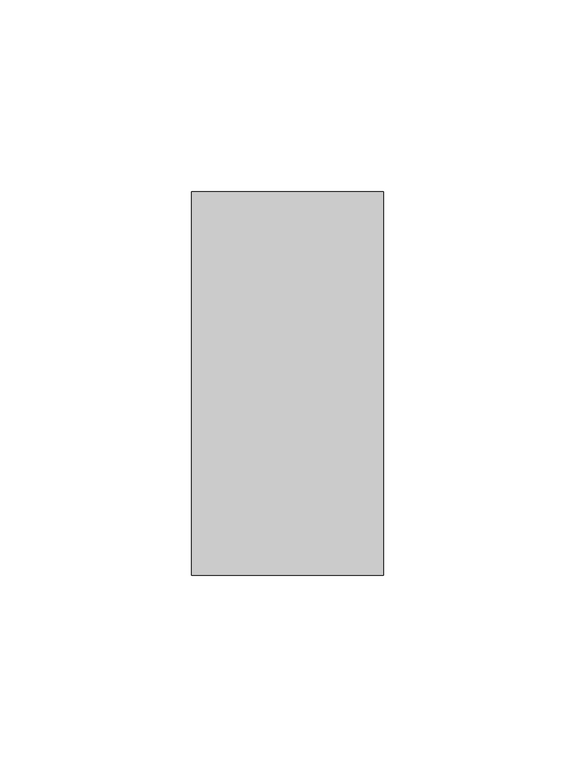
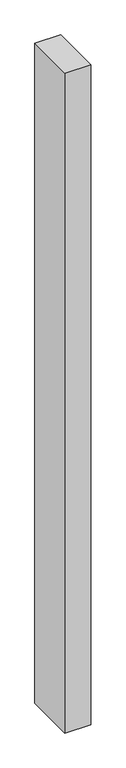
"""IFC4 building model written with IfcOpenShell, lengths in millimetres: member geometry, Прямоугольный импост : 50х100."""

from ifc_helpers import new_model, si_unit, frame, origin, place, context, project, spatial, polyline, outline, extrude, source, transform, mapped, element, save


def member_e036c857(model_context):
    return source(origin(), model_context, "Body", "SweptSolid", [
        extrude(outline(polyline([(0.0, 50.0), (0.0, -50.0), (-50.0, -50.0), (-50.0, 50.0), (0.0, 50.0)])), frame((0.0, 0.0, -1350.0), z_axis=(0.0, 0.0, 1.0), x_axis=(1.0, 0.0, 0.0)), (0.0, 0.0, 1.0), 1350.0),
    ])


if __name__ == "__main__":
    model = new_model("IFC4")
    model_context = context("Model", 3, world=origin())
    ifc_project = project(units=[si_unit("LENGTHUNIT", "METRE", prefix="MILLI")], contexts=[model_context])
    site = spatial("IfcSite", under=ifc_project)
    building = spatial("IfcBuilding", under=site)
    placement = place(None, origin())
    member_shape = member_e036c857(model_context)
    element("IfcMember", 1, ObjectType="Прямоугольный импост : 50х100", at=placement, inside=building, context=model_context, shape_type="MappedRepresentation", body=[
        mapped(member_shape, transform((0.0, 0.0, 0.0), x_axis=(1.0, 0.0, 0.0), y_axis=(0.0, 1.0, 0.0), z_axis=(0.0, 0.0, 1.0))),
    ])
    save(model, "model.ifc")
